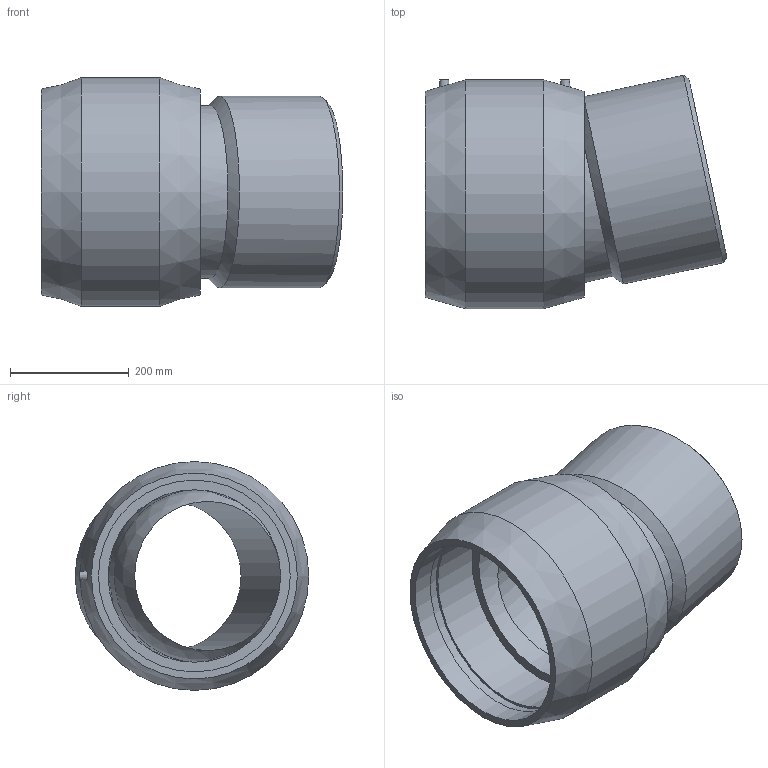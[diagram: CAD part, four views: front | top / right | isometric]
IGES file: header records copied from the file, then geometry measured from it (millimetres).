
Global section: file name: 5947B0S3120.ipt; native system: Autodesk Inventor 2019; preprocessor: unknown; author: KIM; date: 20210830.101222; units: inch
Bounding box: 508.93 x 394 x 386.08 mm (x, y, z)
Volume: 17604343.1 mm3; surface area: 1167596.2 mm2
Topology: 1 solids, 1 shells, 31 faces, 73 edges, 49 vertices
Faces by surface type: plane 11, revolution 7, cone 6, cylinder 6, sphere 1
Full cylindrical faces by diameter (mm): 4 x2, 323.4 x1, 386.08 x1
